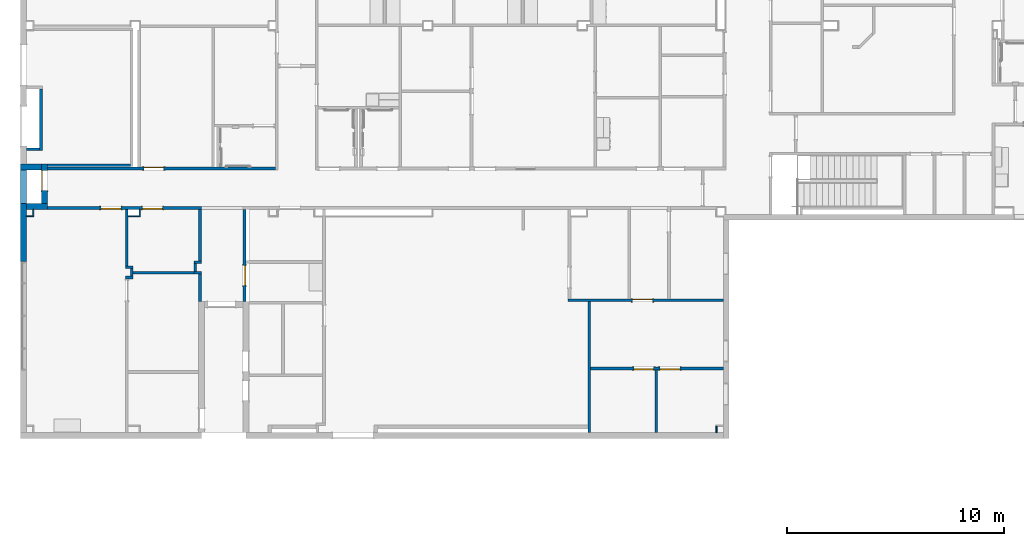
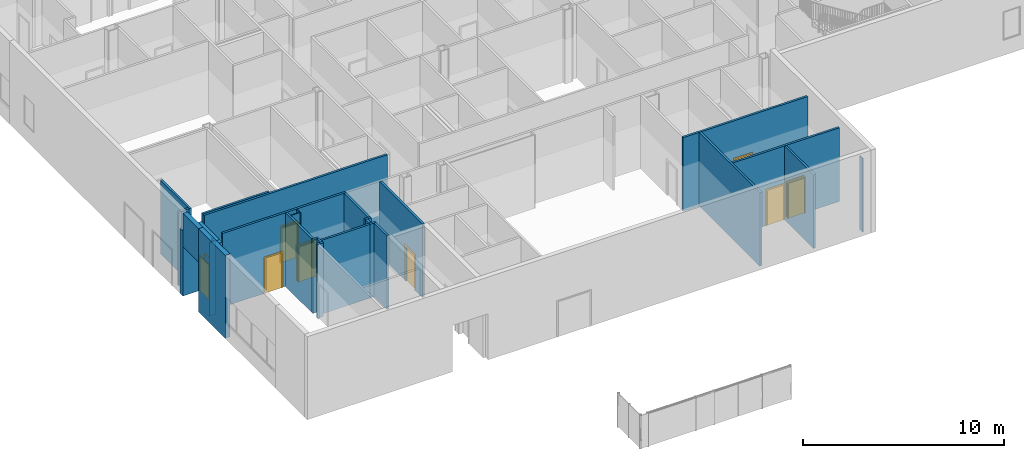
# One storey, part 19 of 82: 30 walls, 8 doors, 8 openings.
"""IFC2X3 building model written with IfcOpenShell, lengths in metres."""

import ifcopenshell
import ifcopenshell.guid

model = None  # the IFC model being written
_history = None  # IfcOwnerHistory: only IFC2X3 demands one
_inside = {}  # id of a spatial element -> (the spatial element, [elements in it])
_under = {}  # id of a project, library or spatial element -> (it, [spatial elements below it])
_declared = {}  # id of a project -> (the project, [libraries it declares])
_typed = {}  # id of a type object -> (the type object, [elements of that type])
_made_of = {}  # id of a material, layer set ... -> (it, [elements and type objects made of it])


def new_model(schema):
    """Start an empty IFC model of exactly this schema.

    Asked for "IFC4X3", IfcOpenShell would pick the latest addendum, in which some entities
    have other attributes; the version numbers below select the first issue.
    IFC2X3 requires an IfcOwnerHistory on every rooted entity: one is made here for all.
    """
    global model, _history
    if schema == "IFC4X3":
        model = ifcopenshell.file(schema_version=(4, 3, 0, 0))
    else:
        model = ifcopenshell.file(schema=schema)
    _inside.clear()
    _under.clear()
    _declared.clear()
    _typed.clear()
    _made_of.clear()
    _history = None
    if model.schema == "IFC2X3":
        org = make("IfcOrganization", Name="unknown")
        user = make(
            "IfcPersonAndOrganization",
            ThePerson=make("IfcPerson", FamilyName="unknown"),
            TheOrganization=org,
        )
        app = make(
            "IfcApplication",
            ApplicationDeveloper=org,
            Version="unknown",
            ApplicationFullName="unknown",
            ApplicationIdentifier="unknown",
        )
        _history = make(
            "IfcOwnerHistory",
            OwningUser=user,
            OwningApplication=app,
            ChangeAction="ADDED",
            CreationDate=0,
        )
    return model


def make(cls, **values):
    """One entity of the class cls with the attributes given. An attribute that is None is left unset."""
    return model.create_entity(
        cls, **{name: value for name, value in values.items() if value is not None}
    )


def entity(cls, *values):
    """Any entity or typed value of the class cls, its attributes in the order of the schema. None: left unset."""
    e = model.create_entity(cls)
    for i, value in enumerate(values):
        if value is not None:
            e[i] = value
    return e


def rooted(cls, **values):
    """An entity with a GlobalId (a new one), such as an element, a storey or a relation."""
    return make(cls, GlobalId=ifcopenshell.guid.new(), OwnerHistory=_history, **values)


def si_unit(unit_type, name, prefix=None):
    """IfcSIUnit, for example si_unit("LENGTHUNIT", "METRE", prefix="MILLI")."""
    return make("IfcSIUnit", UnitType=unit_type, Prefix=prefix, Name=name)


def converted_unit(unit_type, name, factor, base, dimensions=None, offset=None):
    """IfcConversionBasedUnit, such as the inch: factor (a typed value) times the base unit."""
    return make(
        "IfcConversionBasedUnit"
        if offset is None
        else "IfcConversionBasedUnitWithOffset",
        ConversionOffset=offset,
        Dimensions=None
        if dimensions is None
        else entity("IfcDimensionalExponents", *dimensions),
        UnitType=unit_type,
        Name=name,
        ConversionFactor=make(
            "IfcMeasureWithUnit", ValueComponent=factor, UnitComponent=base
        ),
    )


def assignment(units):
    """IfcUnitAssignment: the units of a project."""
    return None if units is None else make("IfcUnitAssignment", Units=units)


def point(xyz):
    """IfcCartesianPoint."""
    return None if xyz is None else make("IfcCartesianPoint", Coordinates=xyz)


def direction(xyz):
    """IfcDirection."""
    return None if xyz is None else make("IfcDirection", DirectionRatios=xyz)


def frame(location, z_axis=None, x_axis=None):
    """IfcAxis2Placement3D, a coordinate frame: its origin and axes. An axis left out is left unset."""
    return make(
        "IfcAxis2Placement3D",
        Location=point(location),
        Axis=direction(z_axis),
        RefDirection=direction(x_axis),
    )


def frame_2d(location, x_axis=None):
    """IfcAxis2Placement2D, a coordinate frame in the plane: its origin and x axis."""
    return make(
        "IfcAxis2Placement2D", Location=point(location), RefDirection=direction(x_axis)
    )


def origin():
    """The frame at (0, 0, 0) with its axes left unset."""
    return frame((0.0, 0.0, 0.0))


def origin_2d_with_axis():
    """The frame at (0, 0) in the plane with the x axis (1, 0) written out."""
    return frame_2d((0.0, 0.0), x_axis=(1.0, 0.0))


def place(relative_to, where):
    """IfcLocalPlacement: puts the frame where relative to a parent placement (None: the world)."""
    return make(
        "IfcLocalPlacement", PlacementRelTo=relative_to, RelativePlacement=where
    )


def context(
    kind, dimensions, precision=None, world=None, true_north=None, identifier=None
):
    """IfcGeometricRepresentationContext, for example the 3D "Model" context."""
    return make(
        "IfcGeometricRepresentationContext",
        ContextIdentifier=identifier,
        ContextType=kind,
        CoordinateSpaceDimension=dimensions,
        Precision=precision,
        WorldCoordinateSystem=world,
        TrueNorth=true_north,
    )


def project(units=None, contexts=None):
    """IfcProject with its units and contexts."""
    return rooted(
        "IfcProject",
        Name="project",
        RepresentationContexts=contexts,
        UnitsInContext=assignment(units),
    )


def spatial(cls, under=None, at=None, **own):
    """A site, building, storey or space (cls), placed at a placement, below another one or the project."""
    s = rooted(cls, ObjectPlacement=at, **own)
    if under is not None:
        _under.setdefault(under.id(), (under, []))[1].append(s)
    return s


def polyline(points):
    """IfcPolyline through the points."""
    return make("IfcPolyline", Points=[point(p) for p in points])


def profile(cls, at=None, kind="AREA", **sizes):
    """A parametric profile (cls). Its sizes go by their IFC names, for example OverallWidth=200.0."""
    return make(cls, ProfileType=kind, Position=at, **sizes)


def rectangle(**sizes):
    """IfcRectangleProfileDef."""
    return profile("IfcRectangleProfileDef", **sizes)


def outline(outer, holes=None, kind="AREA"):
    """IfcArbitraryClosedProfileDef: a profile drawn as a closed curve; with holes, ...WithVoids."""
    if holes is None:
        return make("IfcArbitraryClosedProfileDef", ProfileType=kind, OuterCurve=outer)
    return make(
        "IfcArbitraryProfileDefWithVoids",
        ProfileType=kind,
        OuterCurve=outer,
        InnerCurves=holes,
    )


def extrude(swept, where, along, depth):
    """IfcExtrudedAreaSolid: the profile swept, set in the frame where, extruded along a direction by depth."""
    return make(
        "IfcExtrudedAreaSolid",
        SweptArea=swept,
        Position=where,
        ExtrudedDirection=direction(along),
        Depth=depth,
    )


def shape(context_of_items, identifier, shape_type, items):
    """IfcShapeRepresentation: the items that make up one representation, for example the "Body"."""
    return make(
        "IfcShapeRepresentation",
        ContextOfItems=context_of_items,
        RepresentationIdentifier=identifier,
        RepresentationType=shape_type,
        Items=items,
    )


def source(mapping_origin, context_of_items, identifier, shape_type, items):
    """IfcRepresentationMap: a shape defined once, which mapped items show again and again."""
    return make(
        "IfcRepresentationMap",
        MappingOrigin=mapping_origin,
        MappedRepresentation=shape(context_of_items, identifier, shape_type, items),
    )


def transform(
    local_origin,
    x_axis=None,
    y_axis=None,
    z_axis=None,
    scale=None,
    scale2=None,
    scale3=None,
    uniform=True,
):
    """IfcCartesianTransformationOperator3D, or its non-uniform kind. x_axis, y_axis, z_axis: its Axis1, 2, 3."""
    if uniform:
        return make(
            "IfcCartesianTransformationOperator3D",
            Axis1=direction(x_axis),
            Axis2=direction(y_axis),
            LocalOrigin=point(local_origin),
            Scale=scale,
            Axis3=direction(z_axis),
        )
    return make(
        "IfcCartesianTransformationOperator3DnonUniform",
        Axis1=direction(x_axis),
        Axis2=direction(y_axis),
        LocalOrigin=point(local_origin),
        Scale=scale,
        Axis3=direction(z_axis),
        Scale2=scale2,
        Scale3=scale3,
    )


def mapped(mapping_source, mapping_target):
    """IfcMappedItem: shows the shape of a source again, moved by a transform."""
    return make(
        "IfcMappedItem", MappingSource=mapping_source, MappingTarget=mapping_target
    )


def material(Name=None, Category=None):
    """IfcMaterial."""
    return make("IfcMaterial", Name=Name, Category=Category)


def layer(
    of_material, thickness, ventilated=None, Name=None, Category=None, Priority=None
):
    """IfcMaterialLayer: one layer of a wall or slab, of a material (None: an air gap)."""
    return make(
        "IfcMaterialLayer",
        Material=of_material,
        LayerThickness=thickness,
        IsVentilated=ventilated,
        Name=Name,
        Category=Category,
        Priority=Priority,
    )


def layer_set(layers, Name=None):
    """IfcMaterialLayerSet."""
    return make("IfcMaterialLayerSet", MaterialLayers=layers, LayerSetName=Name)


def layer_usage(for_layer_set, set_direction, sense, offset, extent=None):
    """IfcMaterialLayerSetUsage: how a layer set lies in its element."""
    return make(
        "IfcMaterialLayerSetUsage",
        ForLayerSet=for_layer_set,
        LayerSetDirection=set_direction,
        DirectionSense=sense,
        OffsetFromReferenceLine=offset,
        ReferenceExtent=extent,
    )


def made_of(thing, what):
    """Note that an element or type object is made of a material, layer set ...; save() writes the relation."""
    if what is not None:
        _made_of.setdefault(what.id(), (what, []))[1].append(thing)
    return thing


def type_object(cls, material=None, **own):
    """A type object (cls), such as IfcWallType, which elements share."""
    return made_of(rooted(cls, **own), material)


def type_shapes(of_type, sources):
    """Give a type object the sources (RepresentationMaps) that its elements show as mapped items."""
    of_type.RepresentationMaps = sources


def element(
    cls,
    number,
    at=None,
    inside=None,
    cuts=None,
    type_object=None,
    material=None,
    context=None,
    identifier="Body",
    shape_type=None,
    held_by="IfcProductDefinitionShape",
    body=None,
    shapes=None,
    **own,
):
    """One element of the class cls, such as IfcWall. Its Tag is "e" and its number.

    at: its placement. inside: the storey or other place that contains it. cuts: it is an
    opening in that element (IfcRelVoidsElement). A single representation is given by context,
    identifier, shape_type and body (its items); several are given by shapes. held_by: the class
    of the entity that holds the representations. save() writes the other relations.
    """
    e = rooted(cls, Tag="e%d" % number, ObjectPlacement=at, **own)
    if body is not None:
        shapes = [shape(context, identifier, shape_type, body)]
    if shapes is not None:
        e.Representation = make(held_by, Representations=shapes)
    if inside is not None:
        _inside.setdefault(inside.id(), (inside, []))[1].append(e)
    if cuts is not None:
        rooted(
            "IfcRelVoidsElement", RelatingBuildingElement=cuts, RelatedOpeningElement=e
        )
    if type_object is not None:
        _typed.setdefault(type_object.id(), (type_object, []))[1].append(e)
    return made_of(e, material)


def fill(opening, filler):
    """IfcRelFillsElement: the door or window that sits in an opening."""
    return rooted(
        "IfcRelFillsElement",
        RelatingOpeningElement=opening,
        RelatedBuildingElement=filler,
    )


def aggregate(whole, parts):
    """IfcRelAggregates: a whole, such as a stair, and the parts it consists of."""
    return rooted("IfcRelAggregates", RelatingObject=whole, RelatedObjects=parts)


def save(model, path):
    """Write the relations noted so far, then the file.

    IfcRelAggregates (storeys below a building ...), IfcRelContainedInSpatialStructure (elements
    in a storey), IfcRelDefinesByType, IfcRelAssociatesMaterial and IfcRelDeclares: one each for
    every whole, place, type object, material and project.
    """
    for whole, parts in _under.values():
        aggregate(whole, parts)
    for where, things in _inside.values():
        rooted(
            "IfcRelContainedInSpatialStructure",
            RelatedElements=things,
            RelatingStructure=where,
        )
    for kind, things in _typed.values():
        rooted("IfcRelDefinesByType", RelatedObjects=things, RelatingType=kind)
    for what, things in _made_of.values():
        rooted("IfcRelAssociatesMaterial", RelatedObjects=things, RelatingMaterial=what)
    for by, libraries in _declared.values():
        rooted("IfcRelDeclares", RelatingContext=by, RelatedDefinitions=libraries)
    model.write(path)


model = new_model("IFC2X3")

# Units and contexts
model_context = context("Model", 3, precision=1e-09, world=origin())
plan_context = context("Plan", 3, precision=1e-09, world=origin())
ifc_project = project(units=[si_unit("LENGTHUNIT", "METRE"), si_unit("AREAUNIT", "SQUARE_METRE"), si_unit("VOLUMEUNIT", "CUBIC_METRE"), converted_unit("PLANEANGLEUNIT", "DEGREE", entity("IfcRatioMeasure", 0.01745329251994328), si_unit("PLANEANGLEUNIT", "RADIAN"), dimensions=[0, 0, 0, 0, 0, 0, 0]), si_unit("TIMEUNIT", "SECOND")], contexts=[model_context, plan_context])

# Site, building, storey
site_placement = place(None, origin())
site = spatial("IfcSite", under=ifc_project, at=site_placement, Name="Default", CompositionType="ELEMENT")
building_placement = place(site_placement, origin())
building = spatial("IfcBuilding", under=site, at=building_placement, CompositionType="ELEMENT")
storey_placement = place(building_placement, origin())
storey = spatial("IfcBuildingStorey", under=building, at=storey_placement, Name="First Floor", CompositionType="ELEMENT", Elevation=-3.531500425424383e-13)

# Wall, openings, doors
ifc_material_1 = material(Name="Plasterboard")
ifc_layer_1 = layer(ifc_material_1, 0.016)
ifc_material_2 = material(Name="Metal - Stud Layer")
ifc_layer_2 = layer(ifc_material_2, 0.092)
ifc_layer_3 = layer(ifc_material_1, 0.016)
ifc_layer_set_1 = layer_set([ifc_layer_1, ifc_layer_2, ifc_layer_3], Name="Basic Wall:Interior - Partition (92mm Stud)")
ifc_layer_usage_1 = layer_usage(ifc_layer_set_1, "AXIS2", "NEGATIVE", 0.062)
wall_1_placement = place(storey_placement, frame((-51.04900000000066, 10.22499999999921, 0.0)))
wall_1 = element("IfcWallStandardCase", 1, at=wall_1_placement, inside=storey, material=ifc_layer_usage_1, Name="Basic Wall:Interior - Partition (92mm Stud)", ObjectType="Basic Wall:Interior - Partition (92mm Stud)", context=model_context, shape_type="SweptSolid", body=[
    extrude(rectangle(XDim=7.089000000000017, YDim=0.1240000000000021, at=frame_2d((3.544500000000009, 0.0), x_axis=(-1.0, 0.0))), origin(), (0.0, 0.0, 1.0), 4.46800000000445),
])
opening_1_placement = place(wall_1_placement, frame((3.379000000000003, 0.06199999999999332, 0.0)))
opening_1 = element("IfcOpeningElement", 2, at=opening_1_placement, cuts=wall_1, Name="M_Single-Flush:0915 x 2134mm:0915 x 2134mm:1", ObjectType="Opening", context=model_context, shape_type="SweptSolid", body=[
    extrude(rectangle(XDim=0.9149999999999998, YDim=2.134, at=frame_2d((1.067, 0.4574999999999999), x_axis=(0.0, -1.0))), frame((0.0, 0.0, 0.0), z_axis=(0.0, -1.0, 0.0), x_axis=(0.0, 0.0, 1.0)), (0.0, 0.0, 1.0), 0.124),
])
opening_2_placement = place(wall_1_placement, frame((5.294000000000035, 0.06199999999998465, 0.0)))
opening_2 = element("IfcOpeningElement", 3, at=opening_2_placement, cuts=wall_1, Name="M_Single-Flush:0915 x 2134mm:0915 x 2134mm:1", ObjectType="Opening", context=model_context, shape_type="SweptSolid", body=[
    extrude(rectangle(XDim=0.9149999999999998, YDim=2.134, at=frame_2d((1.067, 0.4575), x_axis=(0.0, 1.0))), frame((0.0, 0.0, 0.0), z_axis=(0.0, -1.0, 0.0), x_axis=(0.0, 0.0, 1.0)), (0.0, 0.0, 1.0), 0.124),
])
door_style_1 = type_object("IfcDoorStyle", Name="0915 x 2134mm", ConstructionType="NOTDEFINED", OperationType="SINGLE_SWING_RIGHT", ParameterTakesPrecedence=False, Sizeable=False)
shared_shape_1 = source(origin(), model_context, "Body", "SweptSolid", [
    extrude(outline(polyline([(-0.5335, -1.123999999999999), (0.5334999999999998, -1.123999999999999), (0.5334999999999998, 1.086), (0.4574999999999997, 1.086), (0.4574999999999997, -1.048000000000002), (-0.4574999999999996, -1.048000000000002), (-0.4574999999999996, 1.086), (-0.5335, 1.086), (-0.5335, -1.123999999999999)])), frame((0.4575000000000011, 0.1239999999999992, 1.086), z_axis=(0.0, 1.0, 0.0), x_axis=(1.0, 0.0, 0.0)), (0.0, 0.0, 1.0), 0.02499999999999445),
    extrude(outline(polyline([(-1.123999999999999, -0.5334999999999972), (1.085999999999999, -0.5334999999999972), (1.085999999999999, -0.4575000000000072), (-1.048, -0.4575000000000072), (-1.048, 0.4575000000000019), (1.085999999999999, 0.4575000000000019), (1.085999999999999, 0.5335000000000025), (-1.123999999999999, 0.5335000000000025), (-1.123999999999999, -0.5334999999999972)])), frame((0.4575000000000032, -0.02500000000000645, 1.085999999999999), z_axis=(0.0, 1.0, 0.0), x_axis=(0.0, 0.0, -1.0)), (0.0, 0.0, 1.0), 0.02500000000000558),
    extrude(rectangle(XDim=0.051, YDim=0.9149999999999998, at=origin_2d_with_axis()), frame((0.4575000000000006, 0.09849999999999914, 0.0), z_axis=(0.0, 0.0, 1.0), x_axis=(0.0, 1.0, 0.0)), (0.0, 0.0, 1.0), 2.133999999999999),
])
type_shapes(door_style_1, [shared_shape_1])
door_1_placement = place(opening_2_placement, frame((0.0, 0.0, 0.0), z_axis=(0.0, 0.0, 1.0), x_axis=(-1.0, 0.0, 0.0)))
door_1 = element("IfcDoor", 4, at=door_1_placement, inside=storey, type_object=door_style_1, Name="M_Single-Flush:0915 x 2134mm:0915 x 2134mm", ObjectType="0915 x 2134mm", OverallHeight=2.134, OverallWidth=0.9149999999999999, context=model_context, shape_type="MappedRepresentation", body=[
    mapped(shared_shape_1, transform((0.0, 0.0, 0.0), scale=1.0)),
])
fill(opening_2, door_1)
door_style_2 = type_object("IfcDoorStyle", Name="0915 x 2134mm", ConstructionType="NOTDEFINED", OperationType="SINGLE_SWING_LEFT", ParameterTakesPrecedence=False, Sizeable=False)
shared_shape_2 = source(origin(), model_context, "Body", "SweptSolid", [
    extrude(outline(polyline([(-0.5335, -1.123999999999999), (0.5334999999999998, -1.123999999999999), (0.5334999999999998, 1.086), (0.4574999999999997, 1.086), (0.4574999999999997, -1.048000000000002), (-0.4574999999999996, -1.048000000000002), (-0.4574999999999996, 1.086), (-0.5335, 1.086), (-0.5335, -1.123999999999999)])), frame((0.4575000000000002, 0.1489999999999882, 1.086), z_axis=(0.0, -1.0, 0.0), x_axis=(-1.0, 0.0, 0.0)), (0.0, 0.0, 1.0), 0.02499999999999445),
    extrude(outline(polyline([(-1.123999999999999, -0.5334999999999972), (1.085999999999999, -0.5334999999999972), (1.085999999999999, -0.4575000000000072), (-1.048, -0.4575000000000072), (-1.048, 0.4575000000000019), (1.085999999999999, 0.4575000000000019), (1.085999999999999, 0.5335000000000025), (-1.123999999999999, 0.5335000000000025), (-1.123999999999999, -0.5334999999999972)])), frame((0.4574999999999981, 0.0, 1.085999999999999), z_axis=(0.0, -1.0, 0.0), x_axis=(0.0, 0.0, -1.0)), (0.0, 0.0, 1.0), 0.02500000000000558),
    extrude(rectangle(XDim=0.9149999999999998, YDim=0.051, at=origin_2d_with_axis()), frame((0.4575000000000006, 0.09849999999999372, 0.0)), (0.0, 0.0, 1.0), 2.133999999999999),
])
type_shapes(door_style_2, [shared_shape_2])
door_2_placement = place(opening_1_placement, frame((0.0, 0.0, 0.0), z_axis=(0.0, 0.0, 1.0), x_axis=(-1.0, 0.0, 0.0)))
door_2 = element("IfcDoor", 5, at=door_2_placement, inside=storey, type_object=door_style_2, Name="M_Single-Flush:0915 x 2134mm:0915 x 2134mm", ObjectType="0915 x 2134mm", OverallHeight=2.134, OverallWidth=0.9149999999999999, context=model_context, shape_type="MappedRepresentation", body=[
    mapped(shared_shape_2, transform((0.0, 0.0, 0.0), scale=1.0)),
])
fill(opening_1, door_2)

# Wall, opening, door
wall_2_placement = place(storey_placement, frame((-19.94700000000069, 5.971999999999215, 0.0), z_axis=(0.0, 0.0, 1.0), x_axis=(-1.0, 0.0, 0.0)))
wall_2 = element("IfcWallStandardCase", 6, at=wall_2_placement, inside=storey, material=ifc_layer_usage_1, Name="Basic Wall:Interior - Partition (92mm Stud)", ObjectType="Basic Wall:Interior - Partition (92mm Stud)", context=model_context, shape_type="SweptSolid", body=[
    extrude(rectangle(XDim=7.143399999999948, YDim=0.124, at=frame_2d((3.571699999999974, 0.0), x_axis=(-1.0, 0.0))), origin(), (0.0, 0.0, 1.0), 4.468000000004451),
])
opening_3_placement = place(wall_2_placement, frame((4.172999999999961, 0.061999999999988, 0.0)))
opening_3 = element("IfcOpeningElement", 7, at=opening_3_placement, cuts=wall_2, Name="M_Single-Flush:0915 x 2134mm:0915 x 2134mm:1", ObjectType="Opening", context=model_context, shape_type="SweptSolid", body=[
    extrude(rectangle(XDim=0.9149999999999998, YDim=2.134, at=frame_2d((1.067, 0.4574999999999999), x_axis=(0.0, -1.0))), frame((0.0, 0.0, 0.0), z_axis=(0.0, -1.0, 0.0), x_axis=(0.0, 0.0, 1.0)), (0.0, 0.0, 1.0), 0.124),
])
door_3_placement = place(opening_3_placement, frame((0.0, 0.0, 0.0), z_axis=(0.0, 0.0, 1.0), x_axis=(-1.0, 0.0, 0.0)))
door_3 = element("IfcDoor", 8, at=door_3_placement, inside=storey, type_object=door_style_2, Name="M_Single-Flush:0915 x 2134mm:0915 x 2134mm", ObjectType="0915 x 2134mm", OverallHeight=2.134, OverallWidth=0.9149999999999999, context=model_context, shape_type="MappedRepresentation", body=[
    mapped(shared_shape_2, transform((0.0, 0.0, 0.0), scale=1.0)),
])
fill(opening_3, door_3)

wall_3_placement = place(storey_placement, frame((-40.55400000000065, 12.04199999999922, 0.0), z_axis=(0.0, 0.0, 1.0), x_axis=(-1.0, 0.0, 0.0)))
wall_3 = element("IfcWallStandardCase", 9, at=wall_3_placement, inside=storey, material=ifc_layer_usage_1, Name="Basic Wall:Interior - Partition (92mm Stud)", ObjectType="Basic Wall:Interior - Partition (92mm Stud)", context=model_context, shape_type="SweptSolid", body=[
    extrude(rectangle(XDim=10.49500000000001, YDim=0.1240000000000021, at=frame_2d((5.247500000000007, 0.0), x_axis=(-1.0, 0.0))), origin(), (0.0, 0.0, 1.0), 4.468000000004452),
])
opening_4_placement = place(wall_3_placement, frame((6.055999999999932, 0.06199999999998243, 0.0)))
opening_4 = element("IfcOpeningElement", 10, at=opening_4_placement, cuts=wall_3, Name="M_Single-Flush:0915 x 2134mm:0915 x 2134mm:1", ObjectType="Opening", context=model_context, shape_type="SweptSolid", body=[
    extrude(rectangle(XDim=0.9149999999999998, YDim=2.134, at=frame_2d((1.067, 0.4574999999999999), x_axis=(0.0, -1.0))), frame((0.0, 0.0, 0.0), z_axis=(0.0, -1.0, 0.0), x_axis=(0.0, 0.0, 1.0)), (0.0, 0.0, 1.0), 0.124),
])
door_4_placement = place(opening_4_placement, frame((0.0, 0.0, 0.0), z_axis=(0.0, 0.0, 1.0), x_axis=(-1.0, 0.0, 0.0)))
door_4 = element("IfcDoor", 11, at=door_4_placement, inside=storey, type_object=door_style_2, Name="M_Single-Flush:0915 x 2134mm:0915 x 2134mm", ObjectType="0915 x 2134mm", OverallHeight=2.134, OverallWidth=0.9149999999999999, context=model_context, shape_type="MappedRepresentation", body=[
    mapped(shared_shape_2, transform((0.0, 0.0, 0.0), scale=1.0)),
])
fill(opening_4, door_4)

wall_4_placement = place(storey_placement, frame((-41.97800000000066, 5.919999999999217, 0.0), z_axis=(0.0, 0.0, 1.0), x_axis=(0.0, 1.0, 0.0)))
wall_4 = element("IfcWallStandardCase", 12, at=wall_4_placement, inside=storey, material=ifc_layer_usage_1, Name="Basic Wall:Interior - Partition (92mm Stud)", ObjectType="Basic Wall:Interior - Partition (92mm Stud)", context=model_context, shape_type="SweptSolid", body=[
    extrude(rectangle(XDim=4.242999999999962, YDim=0.1240000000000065, at=frame_2d((2.121499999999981, 0.0), x_axis=(-1.0, 0.0))), origin(), (0.0, 0.0, 1.0), 4.468000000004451),
])
opening_5_placement = place(wall_4_placement, frame((1.654999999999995, 0.06200000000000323, 0.0)))
opening_5 = element("IfcOpeningElement", 13, at=opening_5_placement, cuts=wall_4, Name=":1", ObjectType="Opening", context=model_context, shape_type="SweptSolid", body=[
    extrude(rectangle(XDim=0.9149999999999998, YDim=2.134, at=frame_2d((1.067, 0.4575000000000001), x_axis=(0.0, -1.0))), frame((0.0, 0.0, 0.0), z_axis=(0.0, -1.0, 0.0), x_axis=(0.0, 0.0, 1.0)), (0.0, 0.0, 1.0), 0.124),
])
door_5_placement = place(opening_5_placement, frame((0.0, 0.0, 0.0), z_axis=(0.0, 0.0, 1.0), x_axis=(-1.0, 0.0, 0.0)))
door_5 = element("IfcDoor", 14, at=door_5_placement, inside=storey, type_object=door_style_2, Name="M_Single-Flush:0915 x 2134mm:0915 x 2134mm", ObjectType="0915 x 2134mm", OverallHeight=2.134, OverallWidth=0.9149999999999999, context=model_context, shape_type="MappedRepresentation", body=[
    mapped(shared_shape_2, transform((0.0, 0.0, 0.0), scale=1.0)),
])
fill(opening_5, door_5)

# Wall
ifc_material_3 = material(Name="Insulation - Insulated Panel")
ifc_layer_4 = layer(ifc_material_3, 0.042)
ifc_material_4 = material(Name="Metal - Firring")
ifc_layer_5 = layer(ifc_material_4, 0.038)
ifc_material_5 = material(Name="Wood - Sheathing - plywood")
ifc_layer_6 = layer(ifc_material_5, 0.019)
ifc_layer_7 = layer(ifc_material_2, 0.152)
ifc_layer_8 = layer(ifc_material_1, 0.016)
ifc_layer_set_2 = layer_set([ifc_layer_4, ifc_layer_5, ifc_layer_6, ifc_layer_7, ifc_layer_8], Name="Basic Wall:Exterior - Insul Panel on Mtl. Stud")
ifc_layer_usage_2 = layer_usage(ifc_layer_set_2, "AXIS2", "NEGATIVE", 0.1335)
wall_5_placement = place(storey_placement, frame((-52.01300000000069, 10.29649999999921, 0.0)))
element("IfcWallStandardCase", 15, at=wall_5_placement, inside=storey, material=ifc_layer_usage_2, Name="Basic Wall:Exterior - Insul Panel on Mtl. Stud", ObjectType="Basic Wall:Exterior - Insul Panel on Mtl. Stud", context=model_context, shape_type="SweptSolid", body=[
    extrude(rectangle(XDim=0.9640000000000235, YDim=0.267, at=frame_2d((0.4820000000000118, 0.0), x_axis=(-1.0, 0.0))), origin(), (0.0, 0.0, 1.0), 3.949500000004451),
])

# Wall, opening, door
wall_6_placement = place(storey_placement, frame((-51.18250000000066, 10.42999999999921, 0.0), z_axis=(0.0, 0.0, 1.0), x_axis=(0.0, 1.0, 0.0)))
wall_6 = element("IfcWallStandardCase", 16, at=wall_6_placement, inside=storey, material=ifc_layer_usage_2, Name="Basic Wall:Exterior - Insul Panel on Mtl. Stud", ObjectType="Basic Wall:Exterior - Insul Panel on Mtl. Stud", context=model_context, shape_type="SweptSolid", body=[
    extrude(rectangle(XDim=1.817000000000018, YDim=0.2670000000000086, at=frame_2d((0.908500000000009, 0.0), x_axis=(-1.0, 0.0))), origin(), (0.0, 0.0, 1.0), 3.949500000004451),
])
opening_6_placement = place(wall_6_placement, frame((0.5950000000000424, -0.133500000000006, 0.0)))
opening_6 = element("IfcOpeningElement", 17, at=opening_6_placement, cuts=wall_6, Name="M_Single-Flush:0915 x 2134mm Exterior:0915 x 2134mm Exterior:1", ObjectType="Opening", context=model_context, shape_type="SweptSolid", body=[
    extrude(rectangle(XDim=0.9149999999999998, YDim=2.134, at=frame_2d((1.067, 0.4575), x_axis=(0.0, 1.0))), frame((0.0, 0.0, 0.0), z_axis=(0.0, 1.0, 0.0), x_axis=(0.0, 0.0, 1.0)), (0.0, 0.0, 1.0), 0.267),
])
door_style_3 = type_object("IfcDoorStyle", Name="0915 x 2134mm Exterior", ConstructionType="NOTDEFINED", OperationType="SINGLE_SWING_RIGHT", ParameterTakesPrecedence=False, Sizeable=False)
shared_shape_3 = source(origin(), model_context, "Body", "SweptSolid", [
    extrude(outline(polyline([(-0.5335, -1.123999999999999), (0.5334999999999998, -1.123999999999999), (0.5334999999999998, 1.086), (0.4574999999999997, 1.086), (0.4574999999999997, -1.048000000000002), (-0.4574999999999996, -1.048000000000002), (-0.4574999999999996, 1.086), (-0.5335, 1.086), (-0.5335, -1.123999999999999)])), frame((0.4575000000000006, 0.2669999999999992, 1.086), z_axis=(0.0, 1.0, 0.0), x_axis=(1.0, 0.0, 0.0)), (0.0, 0.0, 1.0), 0.02499999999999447),
    extrude(outline(polyline([(-1.123999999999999, -0.5334999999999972), (1.085999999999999, -0.5334999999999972), (1.085999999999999, -0.4575000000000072), (-1.048, -0.4575000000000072), (-1.048, 0.4575000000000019), (1.085999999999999, 0.4575000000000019), (1.085999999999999, 0.5335000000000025), (-1.123999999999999, 0.5335000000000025), (-1.123999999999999, -0.5334999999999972)])), frame((0.4575000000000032, -0.02500000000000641, 1.085999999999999), z_axis=(0.0, 1.0, 0.0), x_axis=(0.0, 0.0, -1.0)), (0.0, 0.0, 1.0), 0.0250000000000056),
    extrude(rectangle(XDim=0.051, YDim=0.9149999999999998, at=origin_2d_with_axis()), frame((0.4575000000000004, 0.2414999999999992, 0.0), z_axis=(0.0, 0.0, 1.0), x_axis=(0.0, 1.0, 0.0)), (0.0, 0.0, 1.0), 2.133999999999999),
])
type_shapes(door_style_3, [shared_shape_3])
door_6_placement = place(opening_6_placement, origin())
door_6 = element("IfcDoor", 18, at=door_6_placement, inside=storey, type_object=door_style_3, Name="M_Single-Flush:0915 x 2134mm Exterior:0915 x 2134mm Exterior", ObjectType="0915 x 2134mm Exterior", OverallHeight=2.134, OverallWidth=0.9149999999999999, context=model_context, shape_type="MappedRepresentation", body=[
    mapped(shared_shape_3, transform((0.0, 0.0, 0.0), scale=1.0)),
])
fill(opening_6, door_6)

# Wall, openings, doors
wall_7_placement = place(storey_placement, frame((-19.9470000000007, 2.841999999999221, 0.0), z_axis=(0.0, 0.0, 1.0), x_axis=(-1.0, 0.0, 0.0)))
wall_7 = element("IfcWallStandardCase", 19, at=wall_7_placement, inside=storey, material=ifc_layer_usage_1, Name="Basic Wall:Interior - Partition (92mm Stud)", ObjectType="Basic Wall:Interior - Partition (92mm Stud)", context=model_context, shape_type="SweptSolid", body=[
    extrude(rectangle(XDim=6.102999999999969, YDim=0.124, at=frame_2d((3.051499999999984, 0.0), x_axis=(-1.0, 0.0))), origin(), (0.0, 0.0, 1.0), 4.46800000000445),
])
opening_7_placement = place(wall_7_placement, frame((2.007999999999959, -0.06200000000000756, 0.0)))
opening_7 = element("IfcOpeningElement", 20, at=opening_7_placement, cuts=wall_7, Name="M_Single-Flush:0915 x 2134mm:0915 x 2134mm:1", ObjectType="Opening", context=model_context, shape_type="SweptSolid", body=[
    extrude(rectangle(XDim=0.9149999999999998, YDim=2.134, at=frame_2d((1.067, 0.4575), x_axis=(0.0, 1.0))), frame((0.0, 0.0, 0.0), z_axis=(0.0, 1.0, 0.0), x_axis=(0.0, 0.0, 1.0)), (0.0, 0.0, 1.0), 0.124),
])
opening_8_placement = place(wall_7_placement, frame((3.206999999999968, -0.06200000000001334, 0.0)))
opening_8 = element("IfcOpeningElement", 21, at=opening_8_placement, cuts=wall_7, Name="M_Single-Flush:0915 x 2134mm:0915 x 2134mm:1", ObjectType="Opening", context=model_context, shape_type="SweptSolid", body=[
    extrude(rectangle(XDim=0.9149999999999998, YDim=2.134, at=frame_2d((1.067, 0.4574999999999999), x_axis=(0.0, -1.0))), frame((0.0, 0.0, 0.0), z_axis=(0.0, 1.0, 0.0), x_axis=(0.0, 0.0, 1.0)), (0.0, 0.0, 1.0), 0.124),
])
door_7_placement = place(opening_7_placement, origin())
door_7 = element("IfcDoor", 22, at=door_7_placement, inside=storey, type_object=door_style_1, Name="M_Single-Flush:0915 x 2134mm:0915 x 2134mm", ObjectType="0915 x 2134mm", OverallHeight=2.134, OverallWidth=0.9149999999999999, context=model_context, shape_type="MappedRepresentation", body=[
    mapped(shared_shape_1, transform((0.0, 0.0, 0.0), scale=1.0)),
])
fill(opening_7, door_7)
door_8_placement = place(opening_8_placement, origin())
door_8 = element("IfcDoor", 23, at=door_8_placement, inside=storey, type_object=door_style_2, Name="M_Single-Flush:0915 x 2134mm:0915 x 2134mm", ObjectType="0915 x 2134mm", OverallHeight=2.134, OverallWidth=0.9149999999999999, context=model_context, shape_type="MappedRepresentation", body=[
    mapped(shared_shape_2, transform((0.0, 0.0, 0.0), scale=1.0)),
])
fill(opening_8, door_8)

# Walls
wall_8_placement = place(storey_placement, frame((-26.11200000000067, 5.909999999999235, 0.0), z_axis=(0.0, 0.0, 1.0), x_axis=(0.0, -1.0, 0.0)))
element("IfcWallStandardCase", 24, at=wall_8_placement, inside=storey, material=ifc_layer_usage_1, Name="Basic Wall:Interior - Partition (92mm Stud)", ObjectType="Basic Wall:Interior - Partition (92mm Stud)", context=model_context, shape_type="SweptSolid", body=[
    extrude(rectangle(XDim=6.023000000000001, YDim=0.1239999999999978, at=frame_2d((3.0115, 0.0), x_axis=(-1.0, 0.0))), origin(), (0.0, 0.0, 1.0), 4.468000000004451),
])
wall_9_placement = place(storey_placement, frame((-52.14650000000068, 7.759999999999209, 0.0), z_axis=(0.0, 0.0, 1.0), x_axis=(0.0, 1.0, 0.0)))
element("IfcWallStandardCase", 25, at=wall_9_placement, inside=storey, material=ifc_layer_usage_2, Name="Basic Wall:Exterior - Insul Panel on Mtl. Stud", ObjectType="Basic Wall:Exterior - Insul Panel on Mtl. Stud", context=model_context, shape_type="SweptSolid", body=[
    extrude(rectangle(XDim=2.67, YDim=0.2670000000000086, at=frame_2d((1.335, 0.0), x_axis=(-1.0, 0.0))), origin(), (0.0, 0.0, 1.0), 5.02700000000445),
])
wall_10_placement = place(storey_placement, frame((-44.02200000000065, 10.16299999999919, 0.0), z_axis=(0.0, 0.0, 1.0), x_axis=(0.0, -1.0, 0.0)))
element("IfcWallStandardCase", 26, at=wall_10_placement, inside=storey, material=ifc_layer_usage_1, Name="Basic Wall:Interior - Partition (92mm Stud)", ObjectType="Basic Wall:Interior - Partition (92mm Stud)", context=model_context, shape_type="SweptSolid", body=[
    extrude(rectangle(XDim=2.378999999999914, YDim=0.1240000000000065, at=frame_2d((1.189499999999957, 0.0), x_axis=(-1.0, 0.0))), origin(), (0.0, 0.0, 1.0), 4.46800000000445),
])
wall_11_placement = place(storey_placement, frame((-51.31600000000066, 12.11349999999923, 0.0), z_axis=(0.0, 0.0, 1.0), x_axis=(-1.0, 0.0, 0.0)))
element("IfcWallStandardCase", 27, at=wall_11_placement, inside=storey, material=ifc_layer_usage_2, Name="Basic Wall:Exterior - Insul Panel on Mtl. Stud", ObjectType="Basic Wall:Exterior - Insul Panel on Mtl. Stud", context=model_context, shape_type="SweptSolid", body=[
    extrude(rectangle(XDim=0.9640000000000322, YDim=0.267, at=frame_2d((0.4820000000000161, 0.0), x_axis=(-1.0, 0.0))), origin(), (0.0, 0.0, 1.0), 3.949500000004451),
])
wall_12_placement = place(storey_placement, frame((-52.14650000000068, 10.29649999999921, 3.0), z_axis=(0.0, 0.0, 1.0), x_axis=(0.0, 1.0, 0.0)))
element("IfcWallStandardCase", 28, at=wall_12_placement, inside=storey, material=ifc_layer_usage_2, Name="Basic Wall:Exterior - Insul Panel on Mtl. Stud", ObjectType="Basic Wall:Exterior - Insul Panel on Mtl. Stud", context=model_context, shape_type="SweptSolid", body=[
    extrude(rectangle(XDim=1.550000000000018, YDim=0.267, at=frame_2d((0.908500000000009, 0.0), x_axis=(-1.0, 0.0))), origin(), (0.0, 0.0, 1.0), 2.02700000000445),
])
wall_13_placement = place(storey_placement, frame((-47.15800000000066, 7.089999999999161, 0.0), z_axis=(0.0, 0.0, 1.0), x_axis=(0.0, 1.0, 0.0)))
element("IfcWallStandardCase", 29, at=wall_13_placement, inside=storey, material=ifc_layer_usage_1, Name="Basic Wall:Interior - Partition (92mm Stud)", ObjectType="Basic Wall:Interior - Partition (92mm Stud)", context=model_context, shape_type="SweptSolid", body=[
    extrude(rectangle(XDim=0.3500000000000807, YDim=0.1240000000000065, at=frame_2d((0.1750000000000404, 0.0), x_axis=(-1.0, 0.0))), origin(), (0.0, 0.0, 1.0), 4.46800000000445),
])
wall_14_placement = place(storey_placement, frame((-44.24700012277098, 7.659999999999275, 0.0), z_axis=(0.0, 0.0, 1.0), x_axis=(0.0, -1.0, 0.0)))
element("IfcWallStandardCase", 30, at=wall_14_placement, inside=storey, material=ifc_layer_usage_1, Name="Basic Wall:Interior - Partition (92mm Stud)", ObjectType="Basic Wall:Interior - Partition (92mm Stud)", context=model_context, shape_type="SweptSolid", body=[
    extrude(rectangle(XDim=0.3500000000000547, YDim=0.1240000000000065, at=frame_2d((0.1750000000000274, 0.0), x_axis=(-1.0, 0.0))), origin(), (0.0, 0.0, 1.0), 4.46800000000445),
])
wall_15_placement = place(storey_placement, frame((-44.30900012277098, 7.24799999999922, 0.0), z_axis=(0.0, 0.0, 1.0), x_axis=(-1.0, 0.0, 0.0)))
element("IfcWallStandardCase", 31, at=wall_15_placement, inside=storey, material=ifc_layer_usage_1, Name="Basic Wall:Interior - Partition (92mm Stud)", ObjectType="Basic Wall:Interior - Partition (92mm Stud)", context=model_context, shape_type="SweptSolid", body=[
    extrude(rectangle(XDim=2.786999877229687, YDim=0.124, at=frame_2d((1.393499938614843, 0.0), x_axis=(-1.0, 0.0))), origin(), (0.0, 0.0, 1.0), 4.46800000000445),
])
wall_16_placement = place(storey_placement, frame((-51.04900000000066, 12.18499999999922, 0.0)))
element("IfcWallStandardCase", 32, at=wall_16_placement, inside=storey, material=ifc_layer_usage_1, Name="Basic Wall:Interior - Partition (92mm Stud)", ObjectType="Basic Wall:Interior - Partition (92mm Stud)", context=model_context, shape_type="SweptSolid", body=[
    extrude(rectangle(XDim=3.81900000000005, YDim=0.1240000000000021, at=frame_2d((1.909500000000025, 0.0), x_axis=(-1.0, 0.0))), origin(), (0.0, 0.0, 1.0), 4.46800000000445),
])
wall_17_placement = place(storey_placement, frame((-47.38800000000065, 7.563999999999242, 0.0), z_axis=(0.0, 0.0, 1.0), x_axis=(0.0, 1.0, 0.0)))
element("IfcWallStandardCase", 33, at=wall_17_placement, inside=storey, material=ifc_layer_usage_1, Name="Basic Wall:Interior - Partition (92mm Stud)", ObjectType="Basic Wall:Interior - Partition (92mm Stud)", context=model_context, shape_type="SweptSolid", body=[
    extrude(rectangle(XDim=2.598999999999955, YDim=0.1240000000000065, at=frame_2d((1.299499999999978, 0.0), x_axis=(-1.0, 0.0))), origin(), (0.0, 0.0, 1.0), 4.468000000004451),
])
wall_18_placement = place(storey_placement, frame((-44.02200000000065, 7.18599999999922, 0.0), z_axis=(0.0, 0.0, 1.0), x_axis=(0.0, -1.0, 0.0)))
element("IfcWallStandardCase", 34, at=wall_18_placement, inside=storey, material=ifc_layer_usage_1, Name="Basic Wall:Interior - Partition (92mm Stud)", ObjectType="Basic Wall:Interior - Partition (92mm Stud)", context=model_context, shape_type="SweptSolid", body=[
    extrude(rectangle(XDim=1.266000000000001, YDim=0.1240000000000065, at=frame_2d((0.6330000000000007, 0.0), x_axis=(-1.0, 0.0))), origin(), (0.0, 0.0, 1.0), 4.46800000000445),
])
wall_19_placement = place(storey_placement, frame((-44.30900012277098, 7.24799999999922, 0.0)))
element("IfcWallStandardCase", 35, at=wall_19_placement, inside=storey, material=ifc_layer_usage_1, Name="Basic Wall:Interior - Partition (92mm Stud)", ObjectType="Basic Wall:Interior - Partition (92mm Stud)", context=model_context, shape_type="SweptSolid", body=[
    extrude(rectangle(XDim=0.3490001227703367, YDim=0.124, at=frame_2d((0.1745000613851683, 0.0), x_axis=(-1.0, 0.0))), origin(), (0.0, 0.0, 1.0), 4.46800000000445),
])
wall_20_placement = place(storey_placement, frame((-43.96000000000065, 7.721999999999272, 0.0), z_axis=(0.0, 0.0, 1.0), x_axis=(-1.0, 0.0, 0.0)))
element("IfcWallStandardCase", 36, at=wall_20_placement, inside=storey, material=ifc_layer_usage_1, Name="Basic Wall:Interior - Partition (92mm Stud)", ObjectType="Basic Wall:Interior - Partition (92mm Stud)", context=model_context, shape_type="SweptSolid", body=[
    extrude(rectangle(XDim=0.3490001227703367, YDim=0.124, at=frame_2d((0.1745000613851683, 0.0), x_axis=(-1.0, 0.0))), origin(), (0.0, 0.0, 1.0), 4.46800000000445),
])
ifc_material_6 = material(Name="Type-X Plasterboard")
ifc_layer_9 = layer(ifc_material_6, 0.016)
ifc_layer_10 = layer(ifc_material_2, 0.092)
ifc_layer_11 = layer(ifc_material_6, 0.016)
ifc_layer_set_3 = layer_set([ifc_layer_9, ifc_layer_10, ifc_layer_11], Name="Basic Wall:Interior - Rated 1-HR (92mm Stud)")
ifc_layer_usage_3 = layer_usage(ifc_layer_set_3, "AXIS2", "NEGATIVE", 0.06200000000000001)
wall_21_placement = place(storey_placement, frame((-51.40400000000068, 12.92199999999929, 0.0), z_axis=(0.0, 0.0, 1.0), x_axis=(-1.0, 0.0, 0.0)))
element("IfcWallStandardCase", 37, at=wall_21_placement, inside=storey, material=ifc_layer_usage_3, Name="Basic Wall:Interior - Rated 1-HR (92mm Stud)", ObjectType="Basic Wall:Interior - Rated 1-HR (92mm Stud)", context=model_context, shape_type="SweptSolid", body=[
    extrude(rectangle(XDim=0.6090000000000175, YDim=0.1240000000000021, at=frame_2d((0.3045000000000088, 0.0), x_axis=(-1.0, 0.0))), origin(), (0.0, 0.0, 1.0), 4.46800000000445),
])
wall_22_placement = place(storey_placement, frame((-47.09600000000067, 7.501999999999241, 0.0), z_axis=(0.0, 0.0, 1.0), x_axis=(-1.0, 0.0, 0.0)))
element("IfcWallStandardCase", 38, at=wall_22_placement, inside=storey, material=ifc_layer_usage_1, Name="Basic Wall:Interior - Partition (92mm Stud)", ObjectType="Basic Wall:Interior - Partition (92mm Stud)", context=model_context, shape_type="SweptSolid", body=[
    extrude(rectangle(XDim=0.3539999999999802, YDim=0.124, at=frame_2d((0.1769999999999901, 0.0), x_axis=(-1.0, 0.0))), origin(), (0.0, 0.0, 1.0), 4.46800000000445),
])
wall_23_placement = place(storey_placement, frame((-23.03200000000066, 2.779999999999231, 0.0), z_axis=(0.0, 0.0, 1.0), x_axis=(0.0, -1.0, 0.0)))
element("IfcWallStandardCase", 39, at=wall_23_placement, inside=storey, material=ifc_layer_usage_1, Name="Basic Wall:Interior - Partition (92mm Stud)", ObjectType="Basic Wall:Interior - Partition (92mm Stud)", context=model_context, shape_type="SweptSolid", body=[
    extrude(rectangle(XDim=2.893000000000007, YDim=0.1239999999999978, at=frame_2d((1.446500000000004, 0.0), x_axis=(-1.0, 0.0))), origin(), (0.0, 0.0, 1.0), 4.46800000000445),
])
wall_24_placement = place(storey_placement, frame((-51.34200000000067, 15.7057999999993, 0.0), z_axis=(0.0, 0.0, 1.0), x_axis=(0.0, -1.0, 0.0)))
element("IfcWallStandardCase", 40, at=wall_24_placement, inside=storey, material=ifc_layer_usage_3, Name="Basic Wall:Interior - Rated 1-HR (92mm Stud)", ObjectType="Basic Wall:Interior - Rated 1-HR (92mm Stud)", context=model_context, shape_type="SweptSolid", body=[
    extrude(rectangle(XDim=2.845800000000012, YDim=0.1240000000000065, at=frame_2d((1.422900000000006, 0.0), x_axis=(-1.0, 0.0))), origin(), (0.0, 0.0, 1.0), 4.46800000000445),
])
wall_25_placement = place(storey_placement, frame((-47.45000000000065, 7.027999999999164, 0.0)))
element("IfcWallStandardCase", 41, at=wall_25_placement, inside=storey, material=ifc_layer_usage_1, Name="Basic Wall:Interior - Partition (92mm Stud)", ObjectType="Basic Wall:Interior - Partition (92mm Stud)", context=model_context, shape_type="SweptSolid", body=[
    extrude(rectangle(XDim=0.3539999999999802, YDim=0.124, at=frame_2d((0.1769999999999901, 0.0), x_axis=(-1.0, 0.0))), origin(), (0.0, 0.0, 1.0), 4.46800000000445),
])
ifc_layer_12 = layer(ifc_material_2, 0.038)
ifc_layer_13 = layer(ifc_material_1, 0.016)
ifc_layer_set_4 = layer_set([ifc_layer_12, ifc_layer_13], Name="Basic Wall:Interior - Furring (38 mm Stud)")
ifc_layer_usage_4 = layer_usage(ifc_layer_set_4, "AXIS2", "POSITIVE", -0.027)
wall_26_placement = place(storey_placement, frame((-46.82400000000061, 9.836999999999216, 0.0), z_axis=(0.0, 0.0, 1.0), x_axis=(-1.0, 0.0, 0.0)))
element("IfcWallStandardCase", 42, at=wall_26_placement, inside=storey, material=ifc_layer_usage_4, Name="Basic Wall:Interior - Furring (38 mm Stud)", ObjectType="Basic Wall:Interior - Furring (38 mm Stud)", context=model_context, shape_type="SweptSolid", body=[
    extrude(rectangle(XDim=0.5020000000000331, YDim=0.05400000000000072, at=frame_2d((0.2510000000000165, 0.0), x_axis=(-1.0, 0.0))), origin(), (0.0, 0.0, 1.0), 4.46800000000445),
])
wall_27_placement = place(storey_placement, frame((-46.79700000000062, 10.1629999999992, 0.0), z_axis=(0.0, 0.0, 1.0), x_axis=(0.0, -1.0, 0.0)))
element("IfcWallStandardCase", 43, at=wall_27_placement, inside=storey, material=ifc_layer_usage_4, Name="Basic Wall:Interior - Furring (38 mm Stud)", ObjectType="Basic Wall:Interior - Furring (38 mm Stud)", context=model_context, shape_type="SweptSolid", body=[
    extrude(rectangle(XDim=0.3529999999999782, YDim=0.05400000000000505, at=frame_2d((0.1764999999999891, 0.0), x_axis=(-1.0, 0.0))), origin(), (0.0, 0.0, 1.0), 4.46800000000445),
])
ifc_layer_usage_5 = layer_usage(ifc_layer_set_4, "AXIS2", "NEGATIVE", 0.027)
wall_28_placement = place(storey_placement, frame((-52.01300000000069, 9.836999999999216, 0.0)))
element("IfcWallStandardCase", 44, at=wall_28_placement, inside=storey, material=ifc_layer_usage_5, Name="Basic Wall:Interior - Furring (38 mm Stud)", ObjectType="Basic Wall:Interior - Furring (38 mm Stud)", context=model_context, shape_type="SweptSolid", body=[
    extrude(rectangle(XDim=0.3430000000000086, YDim=0.05400000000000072, at=frame_2d((0.1715000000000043, 0.0), x_axis=(-1.0, 0.0))), origin(), (0.0, 0.0, 1.0), 4.46800000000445),
])
wall_29_placement = place(storey_placement, frame((-51.69700000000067, 9.863999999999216, 0.0), z_axis=(0.0, 0.0, 1.0), x_axis=(0.0, 1.0, 0.0)))
element("IfcWallStandardCase", 45, at=wall_29_placement, inside=storey, material=ifc_layer_usage_5, Name="Basic Wall:Interior - Furring (38 mm Stud)", ObjectType="Basic Wall:Interior - Furring (38 mm Stud)", context=model_context, shape_type="SweptSolid", body=[
    extrude(rectangle(XDim=0.2989999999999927, YDim=0.05400000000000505, at=frame_2d((0.1494999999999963, 0.0), x_axis=(-1.0, 0.0))), origin(), (0.0, 0.0, 1.0), 4.46800000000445),
])
wall_30_placement = place(storey_placement, frame((-20.26300000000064, 0.1759999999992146, 0.0), z_axis=(0.0, 0.0, 1.0), x_axis=(0.0, -1.0, 0.0)))
element("IfcWallStandardCase", 46, at=wall_30_placement, inside=storey, material=ifc_layer_usage_5, Name="Basic Wall:Interior - Furring (38 mm Stud)", ObjectType="Basic Wall:Interior - Furring (38 mm Stud)", context=model_context, shape_type="SweptSolid", body=[
    extrude(rectangle(XDim=0.2889999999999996, YDim=0.05399999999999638, at=frame_2d((0.1444999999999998, 0.0), x_axis=(-1.0, 0.0))), origin(), (0.0, 0.0, 1.0), 4.46800000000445),
])

save(model, "model.ifc")
